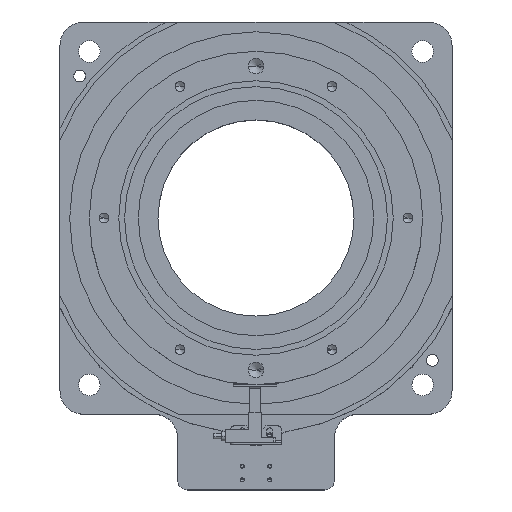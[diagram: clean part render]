
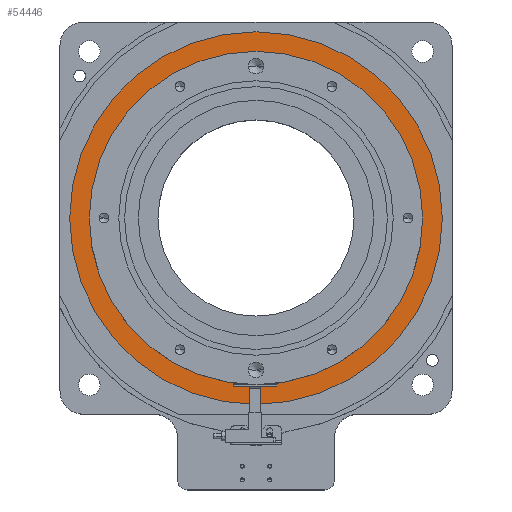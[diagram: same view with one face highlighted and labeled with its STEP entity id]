
A CAD part, top view. The second image highlights one B-rep face of the part: STEP entity #54446.
In plain terms, the highlighted planar face has unit normal (0, 0, 1).
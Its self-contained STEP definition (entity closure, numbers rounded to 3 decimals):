
#25638 = CYLINDRICAL_SURFACE('',#25639,95.);
#25639 = AXIS2_PLACEMENT_3D('',#25640,#25641,#25642);
#25640 = CARTESIAN_POINT('',(-62.664,14.196,
    264.8));
#25641 = DIRECTION('',(0.,0.,1.));
#25642 = DIRECTION('',(1.,0.,-0.));
#25669 = CYLINDRICAL_SURFACE('',#25670,95.);
#25670 = AXIS2_PLACEMENT_3D('',#25671,#25672,#25673);
#25671 = CARTESIAN_POINT('',(-62.664,14.196,
    264.8));
#25672 = DIRECTION('',(0.,0.,1.));
#25673 = DIRECTION('',(1.,0.,-0.));
#51433 = VERTEX_POINT('',#51434);
#51434 = CARTESIAN_POINT('',(32.336,14.196,
    264.8));
#51455 = EDGE_CURVE('',#51433,#51456,#51458,.T.);
#51456 = VERTEX_POINT('',#51457);
#51457 = CARTESIAN_POINT('',(-157.664,14.196,
    264.8));
#51458 = SURFACE_CURVE('',#51459,(#51464,#51471),.PCURVE_S1.);
#51459 = CIRCLE('',#51460,95.);
#51460 = AXIS2_PLACEMENT_3D('',#51461,#51462,#51463);
#51461 = CARTESIAN_POINT('',(-62.664,14.196,
    264.8));
#51462 = DIRECTION('',(0.,0.,1.));
#51463 = DIRECTION('',(1.,0.,-0.));
#51464 = PCURVE('',#25638,#51465);
#51465 = DEFINITIONAL_REPRESENTATION('',(#51466),#51470);
#51466 = LINE('',#51467,#51468);
#51467 = CARTESIAN_POINT('',(0.,0.));
#51468 = VECTOR('',#51469,1.);
#51469 = DIRECTION('',(1.,0.));
#51470 = ( GEOMETRIC_REPRESENTATION_CONTEXT(2) 
PARAMETRIC_REPRESENTATION_CONTEXT() REPRESENTATION_CONTEXT('2D SPACE',''
  ) );
#51471 = PCURVE('',#51472,#51477);
#51472 = PLANE('',#51473);
#51473 = AXIS2_PLACEMENT_3D('',#51474,#51475,#51476);
#51474 = CARTESIAN_POINT('',(-62.664,14.196,
    264.8));
#51475 = DIRECTION('',(0.,0.,1.));
#51476 = DIRECTION('',(1.,0.,-0.));
#51477 = DEFINITIONAL_REPRESENTATION('',(#51478),#51482);
#51478 = CIRCLE('',#51479,95.);
#51479 = AXIS2_PLACEMENT_2D('',#51480,#51481);
#51480 = CARTESIAN_POINT('',(0.,0.));
#51481 = DIRECTION('',(1.,0.));
#51482 = ( GEOMETRIC_REPRESENTATION_CONTEXT(2) 
PARAMETRIC_REPRESENTATION_CONTEXT() REPRESENTATION_CONTEXT('2D SPACE',''
  ) );
#51511 = EDGE_CURVE('',#51456,#51433,#51512,.T.);
#51512 = SURFACE_CURVE('',#51513,(#51518,#51525),.PCURVE_S1.);
#51513 = CIRCLE('',#51514,95.);
#51514 = AXIS2_PLACEMENT_3D('',#51515,#51516,#51517);
#51515 = CARTESIAN_POINT('',(-62.664,14.196,
    264.8));
#51516 = DIRECTION('',(0.,0.,1.));
#51517 = DIRECTION('',(1.,0.,-0.));
#51518 = PCURVE('',#25669,#51519);
#51519 = DEFINITIONAL_REPRESENTATION('',(#51520),#51524);
#51520 = LINE('',#51521,#51522);
#51521 = CARTESIAN_POINT('',(0.,0.));
#51522 = VECTOR('',#51523,1.);
#51523 = DIRECTION('',(1.,0.));
#51524 = ( GEOMETRIC_REPRESENTATION_CONTEXT(2) 
PARAMETRIC_REPRESENTATION_CONTEXT() REPRESENTATION_CONTEXT('2D SPACE',''
  ) );
#51525 = PCURVE('',#51472,#51526);
#51526 = DEFINITIONAL_REPRESENTATION('',(#51527),#51531);
#51527 = CIRCLE('',#51528,95.);
#51528 = AXIS2_PLACEMENT_2D('',#51529,#51530);
#51529 = CARTESIAN_POINT('',(0.,0.));
#51530 = DIRECTION('',(1.,0.));
#51531 = ( GEOMETRIC_REPRESENTATION_CONTEXT(2) 
PARAMETRIC_REPRESENTATION_CONTEXT() REPRESENTATION_CONTEXT('2D SPACE',''
  ) );
#54446 = ADVANCED_FACE('',(#54447,#54515),#51472,.T.);
#54447 = FACE_BOUND('',#54448,.T.);
#54448 = EDGE_LOOP('',(#54449,#54484));
#54449 = ORIENTED_EDGE('',*,*,#54450,.T.);
#54450 = EDGE_CURVE('',#54451,#54453,#54455,.T.);
#54451 = VERTEX_POINT('',#54452);
#54452 = CARTESIAN_POINT('',(-147.664,14.196,
    264.8));
#54453 = VERTEX_POINT('',#54454);
#54454 = CARTESIAN_POINT('',(22.336,14.196,
    264.8));
#54455 = SURFACE_CURVE('',#54456,(#54461,#54472),.PCURVE_S1.);
#54456 = CIRCLE('',#54457,85.);
#54457 = AXIS2_PLACEMENT_3D('',#54458,#54459,#54460);
#54458 = CARTESIAN_POINT('',(-62.664,14.196,
    264.8));
#54459 = DIRECTION('',(-0.,0.,-1.));
#54460 = DIRECTION('',(-1.,0.,0.));
#54461 = PCURVE('',#51472,#54462);
#54462 = DEFINITIONAL_REPRESENTATION('',(#54463),#54471);
#54463 = ( BOUNDED_CURVE() B_SPLINE_CURVE(2,(#54464,#54465,#54466,#54467
    ,#54468,#54469,#54470),.UNSPECIFIED.,.T.,.F.) 
B_SPLINE_CURVE_WITH_KNOTS((1,2,2,2,2,1),(-2.094,0.,
    2.094,4.189,6.283,8.378),
.UNSPECIFIED.) CURVE() GEOMETRIC_REPRESENTATION_ITEM() 
RATIONAL_B_SPLINE_CURVE((1.,0.5,1.,0.5,1.,0.5,1.)) REPRESENTATION_ITEM(
  '') );
#54464 = CARTESIAN_POINT('',(-85.,0.));
#54465 = CARTESIAN_POINT('',(-85.,147.224));
#54466 = CARTESIAN_POINT('',(42.5,73.612));
#54467 = CARTESIAN_POINT('',(170.,0.));
#54468 = CARTESIAN_POINT('',(42.5,-73.612));
#54469 = CARTESIAN_POINT('',(-85.,-147.224));
#54470 = CARTESIAN_POINT('',(-85.,0.));
#54471 = ( GEOMETRIC_REPRESENTATION_CONTEXT(2) 
PARAMETRIC_REPRESENTATION_CONTEXT() REPRESENTATION_CONTEXT('2D SPACE',''
  ) );
#54472 = PCURVE('',#54473,#54478);
#54473 = CYLINDRICAL_SURFACE('',#54474,85.);
#54474 = AXIS2_PLACEMENT_3D('',#54475,#54476,#54477);
#54475 = CARTESIAN_POINT('',(-62.664,14.196,
    286.5));
#54476 = DIRECTION('',(-0.,-0.,-1.));
#54477 = DIRECTION('',(-1.,0.,0.));
#54478 = DEFINITIONAL_REPRESENTATION('',(#54479),#54483);
#54479 = LINE('',#54480,#54481);
#54480 = CARTESIAN_POINT('',(0.,21.7));
#54481 = VECTOR('',#54482,1.);
#54482 = DIRECTION('',(1.,0.));
#54483 = ( GEOMETRIC_REPRESENTATION_CONTEXT(2) 
PARAMETRIC_REPRESENTATION_CONTEXT() REPRESENTATION_CONTEXT('2D SPACE',''
  ) );
#54484 = ORIENTED_EDGE('',*,*,#54485,.T.);
#54485 = EDGE_CURVE('',#54453,#54451,#54486,.T.);
#54486 = SURFACE_CURVE('',#54487,(#54492,#54503),.PCURVE_S1.);
#54487 = CIRCLE('',#54488,85.);
#54488 = AXIS2_PLACEMENT_3D('',#54489,#54490,#54491);
#54489 = CARTESIAN_POINT('',(-62.664,14.196,
    264.8));
#54490 = DIRECTION('',(-0.,0.,-1.));
#54491 = DIRECTION('',(-1.,0.,0.));
#54492 = PCURVE('',#51472,#54493);
#54493 = DEFINITIONAL_REPRESENTATION('',(#54494),#54502);
#54494 = ( BOUNDED_CURVE() B_SPLINE_CURVE(2,(#54495,#54496,#54497,#54498
    ,#54499,#54500,#54501),.UNSPECIFIED.,.T.,.F.) 
B_SPLINE_CURVE_WITH_KNOTS((1,2,2,2,2,1),(-2.094,0.,
    2.094,4.189,6.283,8.378),
.UNSPECIFIED.) CURVE() GEOMETRIC_REPRESENTATION_ITEM() 
RATIONAL_B_SPLINE_CURVE((1.,0.5,1.,0.5,1.,0.5,1.)) REPRESENTATION_ITEM(
  '') );
#54495 = CARTESIAN_POINT('',(-85.,0.));
#54496 = CARTESIAN_POINT('',(-85.,147.224));
#54497 = CARTESIAN_POINT('',(42.5,73.612));
#54498 = CARTESIAN_POINT('',(170.,0.));
#54499 = CARTESIAN_POINT('',(42.5,-73.612));
#54500 = CARTESIAN_POINT('',(-85.,-147.224));
#54501 = CARTESIAN_POINT('',(-85.,0.));
#54502 = ( GEOMETRIC_REPRESENTATION_CONTEXT(2) 
PARAMETRIC_REPRESENTATION_CONTEXT() REPRESENTATION_CONTEXT('2D SPACE',''
  ) );
#54503 = PCURVE('',#54504,#54509);
#54504 = CYLINDRICAL_SURFACE('',#54505,85.);
#54505 = AXIS2_PLACEMENT_3D('',#54506,#54507,#54508);
#54506 = CARTESIAN_POINT('',(-62.664,14.196,
    286.5));
#54507 = DIRECTION('',(-0.,-0.,-1.));
#54508 = DIRECTION('',(-1.,0.,0.));
#54509 = DEFINITIONAL_REPRESENTATION('',(#54510),#54514);
#54510 = LINE('',#54511,#54512);
#54511 = CARTESIAN_POINT('',(0.,21.7));
#54512 = VECTOR('',#54513,1.);
#54513 = DIRECTION('',(1.,0.));
#54514 = ( GEOMETRIC_REPRESENTATION_CONTEXT(2) 
PARAMETRIC_REPRESENTATION_CONTEXT() REPRESENTATION_CONTEXT('2D SPACE',''
  ) );
#54515 = FACE_BOUND('',#54516,.T.);
#54516 = EDGE_LOOP('',(#54517,#54518));
#54517 = ORIENTED_EDGE('',*,*,#51455,.T.);
#54518 = ORIENTED_EDGE('',*,*,#51511,.T.);
